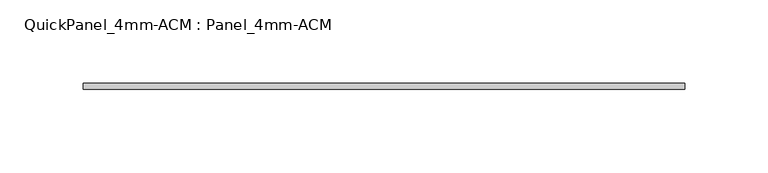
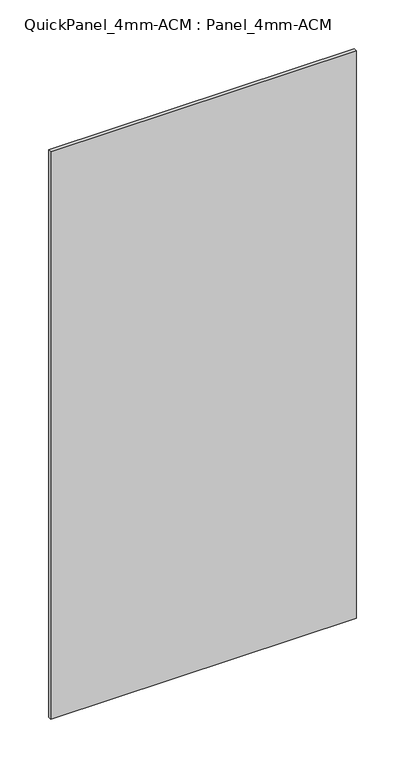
"""IFC4 building model written with IfcOpenShell, lengths in millimetres: plate geometry, QuickPanel_4mm-ACM : Panel_4mm-ACM."""

from ifc_helpers import new_model, si_unit, origin, origin_with_axes, place, context, project, spatial, polyline, outline, extrude, source, transform, mapped, element, save


def quickpanel_4mm_acm_panel_4mm_acm_1ffc63b3(model_context):
    return source(origin(), model_context, "Body", "SweptSolid", [
        extrude(outline(polyline([(-181.0107026, -6.096), (181.0107026, -6.096), (181.0107026, -9.906), (-181.0107026, -9.906), (-181.0107026, -6.096)])), origin_with_axes(), (0.0, 0.0, 1.0), 710.9296939),
    ])


if __name__ == "__main__":
    model = new_model("IFC4")
    model_context = context("Model", 3, world=origin())
    ifc_project = project(units=[si_unit("LENGTHUNIT", "METRE", prefix="MILLI")], contexts=[model_context])
    site = spatial("IfcSite", under=ifc_project)
    building = spatial("IfcBuilding", under=site)
    placement = place(None, origin())
    quickpanel_4mm_acm_panel_4mm_acm_shape = quickpanel_4mm_acm_panel_4mm_acm_1ffc63b3(model_context)
    element("IfcPlate", 1, ObjectType="QuickPanel_4mm-ACM : Panel_4mm-ACM", at=placement, inside=building, context=model_context, shape_type="MappedRepresentation", body=[
        mapped(quickpanel_4mm_acm_panel_4mm_acm_shape, transform((0.0, 0.0, 0.0), x_axis=(1.0, 0.0, 0.0), y_axis=(0.0, 1.0, 0.0), z_axis=(0.0, 0.0, 1.0))),
    ])
    save(model, "model.ifc")
